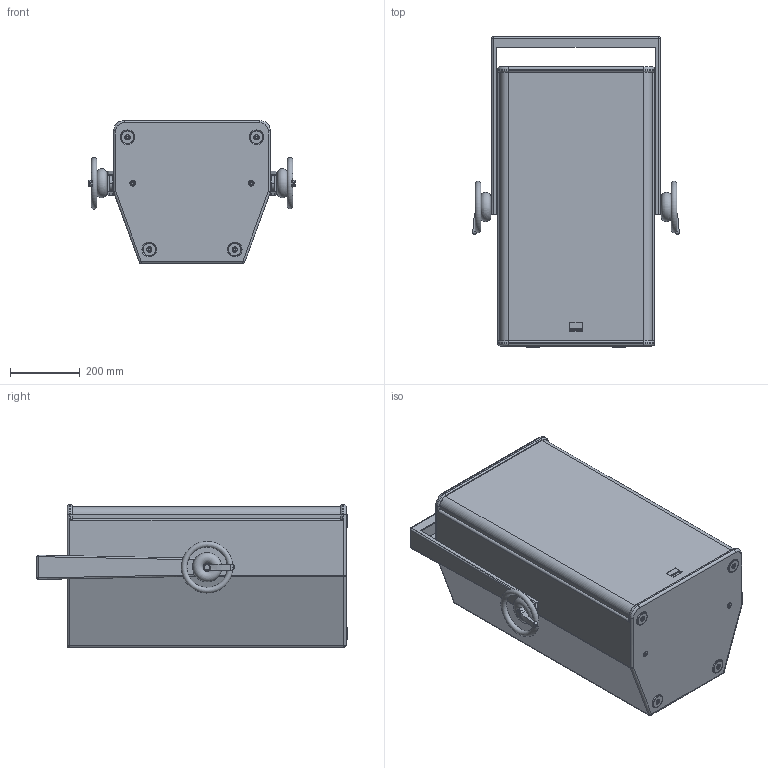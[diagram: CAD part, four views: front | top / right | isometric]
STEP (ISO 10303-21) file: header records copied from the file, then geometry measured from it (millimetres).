
FILE_DESCRIPTION (( 'STEP AP203' ), '1' );
FILE_NAME ('Seeburg_F8_Bracket.STEP', '2012-10-15T12:53:54', ( 'Fabian' ), ( '' ), 'SwSTEP 2.0', 'SolidWorks 2009', '' );
FILE_SCHEMA (( 'CONFIG_CONTROL_DESIGN' ));
Length unit declared in the file: millimetre
Products named in the file (2): F8_Bracket-ver; Seeburg_F8_Bracket
Assembly tree (1 placements, depth 2):
  Seeburg_F8_Bracket
    F8_Bracket-ver
Bounding box: 591.25 x 889.5 x 410 mm (x, y, z)
Volume: 29354718.8 mm3; surface area: 3557556.4 mm2
Topology: 27 solids, 27 shells, 704 faces, 1761 edges, 1132 vertices
Faces by surface type: cylinder 310, plane 244, torus 64, cone 63, sphere 19, bspline 4
Entity records: 24038 total; most frequent: CARTESIAN_POINT 6685, DIRECTION 3766, ORIENTED_EDGE 3482, EDGE_CURVE 1741, AXIS2_PLACEMENT_3D 1463, VERTEX_POINT 1122, LINE 840, VECTOR 840
